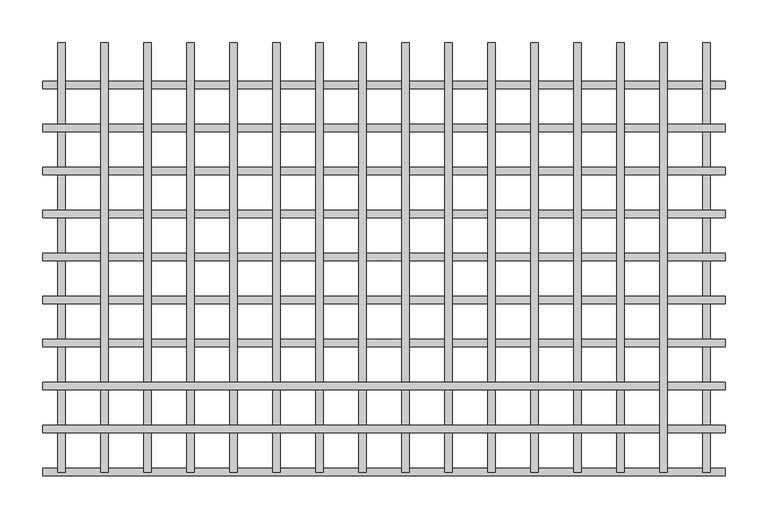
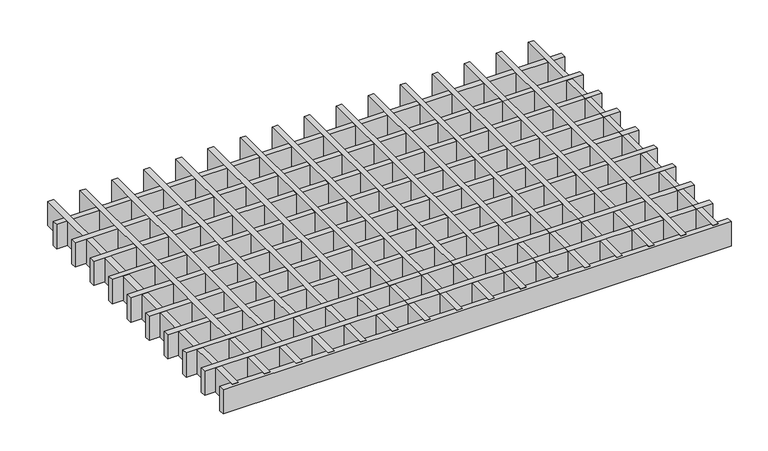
"""IFC4 building model written with IfcOpenShell, lengths in millimetres: proxy geometry, durlum_GEO_panel : durlum_GEO_9_corner_cut."""

from ifc_helpers import new_model, si_unit, origin, origin_with_axes, place, context, project, spatial, polyline, outline, extrude, source, transform, mapped, element, save


def generic_models_58272551(model_context):
    return source(origin(), model_context, "Body", "SweptSolid", [
        extrude(outline(polyline([(320.5, 249.5), (329.5, 249.5), (329.5, -249.5), (320.5, -249.5), (320.5, 249.5)])), origin_with_axes(), (0.0, 0.0, 1.0), 40.0),
        extrude(outline(polyline([(396.5628516, -195.0), (396.5628516, -204.0), (-396.5628516, -204.0), (-396.5628516, -195.0), (396.5628516, -195.0)])), origin_with_axes(), (0.0, 0.0, 1.0), 40.0),
        extrude(outline(polyline([(396.5628516, -145.0), (396.5628516, -154.0), (-396.5628516, -154.0), (-396.5628516, -145.0), (396.5628516, -145.0)])), origin_with_axes(), (0.0, 0.0, 1.0), 40.0),
        extrude(outline(polyline([(270.5, 249.5), (279.5, 249.5), (279.5, -249.5), (270.5, -249.5), (270.5, 249.5)])), origin_with_axes(), (0.0, 0.0, 1.0), 40.0),
        extrude(outline(polyline([(220.5, 249.5), (229.5, 249.5), (229.5, -249.5), (220.5, -249.5), (220.5, 249.5)])), origin_with_axes(), (0.0, 0.0, 1.0), 40.0),
        extrude(outline(polyline([(170.5, 249.5), (179.5, 249.5), (179.5, -249.5), (170.5, -249.5), (170.5, 249.5)])), origin_with_axes(), (0.0, 0.0, 1.0), 40.0),
        extrude(outline(polyline([(120.5, 249.5), (129.5, 249.5), (129.5, -249.5), (120.5, -249.5), (120.5, 249.5)])), origin_with_axes(), (0.0, 0.0, 1.0), 40.0),
        extrude(outline(polyline([(70.5, 249.5), (79.5, 249.5), (79.5, -249.5), (70.5, -249.5), (70.5, 249.5)])), origin_with_axes(), (0.0, 0.0, 1.0), 40.0),
        extrude(outline(polyline([(20.5, 249.5), (29.5, 249.5), (29.5, -249.5), (20.5, -249.5), (20.5, 249.5)])), origin_with_axes(), (0.0, 0.0, 1.0), 40.0),
        extrude(outline(polyline([(-29.5, 249.5), (-20.5, 249.5), (-20.5, -249.5), (-29.5, -249.5), (-29.5, 249.5)])), origin_with_axes(), (0.0, 0.0, 1.0), 40.0),
        extrude(outline(polyline([(-79.5, 249.5), (-70.5, 249.5), (-70.5, -249.5), (-79.5, -249.5), (-79.5, 249.5)])), origin_with_axes(), (0.0, 0.0, 1.0), 40.0),
        extrude(outline(polyline([(-129.5, 249.5), (-120.5, 249.5), (-120.5, -249.5), (-129.5, -249.5), (-129.5, 249.5)])), origin_with_axes(), (0.0, 0.0, 1.0), 40.0),
        extrude(outline(polyline([(-179.5, 249.5), (-170.5, 249.5), (-170.5, -249.5), (-179.5, -249.5), (-179.5, 249.5)])), origin_with_axes(), (0.0, 0.0, 1.0), 40.0),
        extrude(outline(polyline([(-229.5, 249.5), (-220.5, 249.5), (-220.5, -249.5), (-229.5, -249.5), (-229.5, 249.5)])), origin_with_axes(), (0.0, 0.0, 1.0), 40.0),
        extrude(outline(polyline([(-279.5, 249.5), (-270.5, 249.5), (-270.5, -249.5), (-279.5, -249.5), (-279.5, 249.5)])), origin_with_axes(), (0.0, 0.0, 1.0), 40.0),
        extrude(outline(polyline([(-329.5, 249.5), (-320.5, 249.5), (-320.5, -249.5), (-329.5, -249.5), (-329.5, 249.5)])), origin_with_axes(), (0.0, 0.0, 1.0), 40.0),
        extrude(outline(polyline([(396.5628516, -95.0), (396.5628516, -104.0), (-396.5628516, -104.0), (-396.5628516, -95.0), (396.5628516, -95.0)])), origin_with_axes(), (0.0, 0.0, 1.0), 40.0),
        extrude(outline(polyline([(396.5628516, -45.0), (396.5628516, -54.0), (-396.5628516, -54.0), (-396.5628516, -45.0), (396.5628516, -45.0)])), origin_with_axes(), (0.0, 0.0, 1.0), 40.0),
        extrude(outline(polyline([(396.5628516, 5.0), (396.5628516, -4.0), (-396.5628516, -4.0), (-396.5628516, 5.0), (396.5628516, 5.0)])), origin_with_axes(), (0.0, 0.0, 1.0), 40.0),
        extrude(outline(polyline([(396.5628516, 55.0), (396.5628516, 46.0), (-396.5628516, 46.0), (-396.5628516, 55.0), (396.5628516, 55.0)])), origin_with_axes(), (0.0, 0.0, 1.0), 40.0),
        extrude(outline(polyline([(396.5628516, 105.0), (396.5628516, 96.0), (-396.5628516, 96.0), (-396.5628516, 105.0), (396.5628516, 105.0)])), origin_with_axes(), (0.0, 0.0, 1.0), 40.0),
        extrude(outline(polyline([(396.5628516, 155.0), (396.5628516, 146.0), (-396.5628516, 146.0), (-396.5628516, 155.0), (396.5628516, 155.0)])), origin_with_axes(), (0.0, 0.0, 1.0), 40.0),
        extrude(outline(polyline([(370.5, 249.5), (379.5, 249.5), (379.5, -249.5), (370.5, -249.5), (370.5, 249.5)])), origin_with_axes(), (0.0, 0.0, 1.0), 40.0),
        extrude(outline(polyline([(-379.5, 249.5), (-370.5, 249.5), (-370.5, -249.5), (-379.5, -249.5), (-379.5, 249.5)])), origin_with_axes(), (0.0, 0.0, 1.0), 40.0),
        extrude(outline(polyline([(396.5628516, -245.0), (396.5628516, -254.0), (-396.5628516, -254.0), (-396.5628516, -245.0), (396.5628516, -245.0)])), origin_with_axes(), (0.0, 0.0, 1.0), 40.0),
        extrude(outline(polyline([(396.5628516, 205.0), (396.5628516, 196.0), (-396.5628516, 196.0), (-396.5628516, 205.0), (396.5628516, 205.0)])), origin_with_axes(), (0.0, 0.0, 1.0), 40.0),
    ])


if __name__ == "__main__":
    model = new_model("IFC4")
    model_context = context("Model", 3, world=origin())
    ifc_project = project(units=[si_unit("LENGTHUNIT", "METRE", prefix="MILLI")], contexts=[model_context])
    site = spatial("IfcSite", under=ifc_project)
    building = spatial("IfcBuilding", under=site)
    placement = place(None, origin())
    generic_models_shape = generic_models_58272551(model_context)
    element("IfcBuildingElementProxy", 1, Name="durlum_GEO_panel : durlum_GEO_9_corner_cut", ObjectType="durlum_GEO_panel : durlum_GEO_9_corner_cut", at=placement, inside=building, context=model_context, shape_type="MappedRepresentation", body=[
        mapped(generic_models_shape, transform((0.0, 0.0, 0.0), x_axis=(1.0, 0.0, 0.0), y_axis=(0.0, 1.0, 0.0), z_axis=(0.0, 0.0, 1.0))),
    ])
    save(model, "model.ifc")
